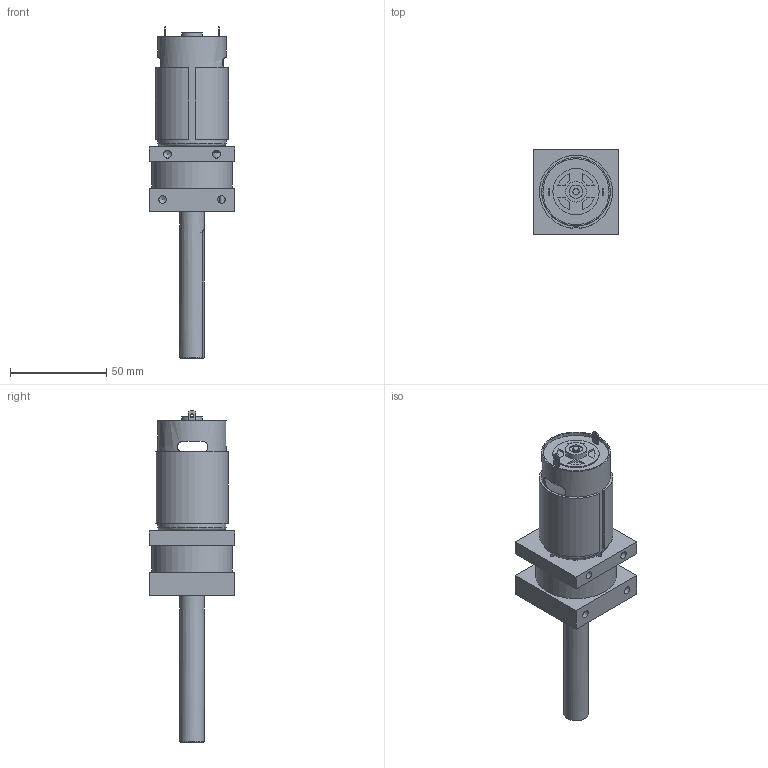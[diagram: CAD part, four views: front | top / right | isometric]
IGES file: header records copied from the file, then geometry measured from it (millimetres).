
Global section: file name: No Iges File Name specified; native system: AutoDesk Inventor R5.0; preprocessor: AutoDesk Inventor Iges Exporter R5.0; author: No Author specified; organization: No Organization specified; date: 20070115.070830; units: inch
Bounding box: 44.45 x 44.45 x 172.17 mm (x, y, z)
Surface area: 42937.8 mm2 (no closed solid volume)
Topology: 0 solids, 0 shells, 210 faces, 906 edges, 816 vertices
Faces by surface type: plane 85, revolution 73, bspline 52
